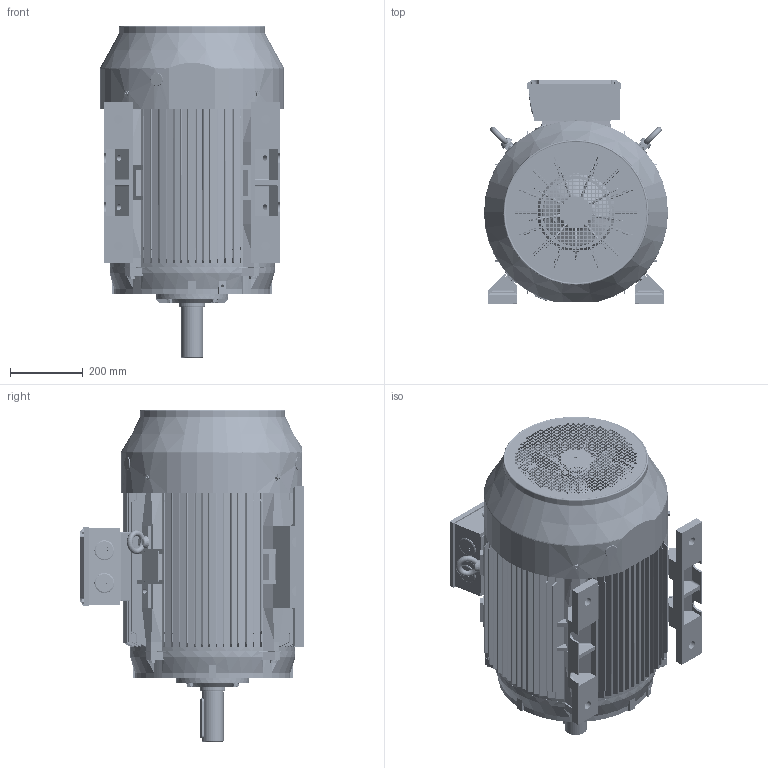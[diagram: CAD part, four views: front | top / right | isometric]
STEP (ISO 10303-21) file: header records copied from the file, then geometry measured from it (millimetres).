
FILE_DESCRIPTION (( 'STEP AP203' ), '1' );
FILE_NAME ('TC 250M-2 B3外形图.STEP', '2013-06-25T08:10:01', ( '微软用户' ), ( '微软中国' ), 'SwSTEP 2.0', 'SolidWorks 2008', '' );
FILE_SCHEMA (( 'CONFIG_CONTROL_DESIGN' ));
Length unit declared in the file: millimetre
Products named in the file (26): TC 250M B5机座_默认; TC 250M-2 转轴_默认; 平键18-110_默认; 6314_默认; TC 250-280S接线盒座_默认; TC 250-280S接线盒盖_默认; 10_默认; 12_默认; 铜油嘴_默认; TC 250M-2 B3俋倛芞; TC 250M 底脚_默认; TC250B3后端盖（TFC400T后端盖）_默认; TC 250 轴承外盖NDE_默认; TC 250M-2 转子_默认; TC250B3前端盖（TFC400T2极前端盖）_默认; TC 250 轴承外盖DE_默认; IE2 250-4P 风叶_默认; TC 250 风罩_默认; 油封70-95-10_默认; 螺塞M50_默认; M12-45_默认; M10-80_默认; 扣塞_默认; M8-12_默认; M8-20_默认; 吊环M16_默认
Assembly tree (48 placements, depth 3):
  TC 250M-2 B3俋倛芞
    扣塞_默认  x2
    10_默认  x4
    M12-45_默认  x4
    TC250B3后端盖（TFC400T后端盖）_默认
    TC 250M-2 转子_默认
      平键18-110_默认
      6314_默认  x2
      TC 250M-2 转轴_默认
    12_默认  x4
    IE2 250-4P 风叶_默认
    油封70-95-10_默认
    M8-12_默认  x4
    M10-80_默认  x4
    M8-20_默认  x4
    吊环M16_默认  x2
    TC 250M 底脚_默认  x2
    TC 250 轴承外盖NDE_默认
    TC 250M B5机座_默认
    铜油嘴_默认
    螺塞M50_默认  x2
    TC 250 轴承外盖DE_默认
    TC250B3前端盖（TFC400T2极前端盖）_默认
    TC 250 风罩_默认
    TC 250-280S接线盒座_默认
    TC 250-280S接线盒盖_默认
Bounding box: 506.4 x 614.03 x 913.5 mm (x, y, z)
Volume: 26241313.5 mm3; surface area: 5932899.5 mm2
Topology: 48 solids, 49 shells, 9329 faces, 27060 edges, 17846 vertices
Faces by surface type: plane 4584, cylinder 3837, cone 348, bspline 300, torus 198, sphere 62
Entity records: 310634 total; most frequent: CARTESIAN_POINT 72580, ORIENTED_EDGE 50208, DIRECTION 48229, EDGE_CURVE 25104, VERTEX_POINT 16596, AXIS2_PLACEMENT_3D 16519, VECTOR 15191, LINE 15191
